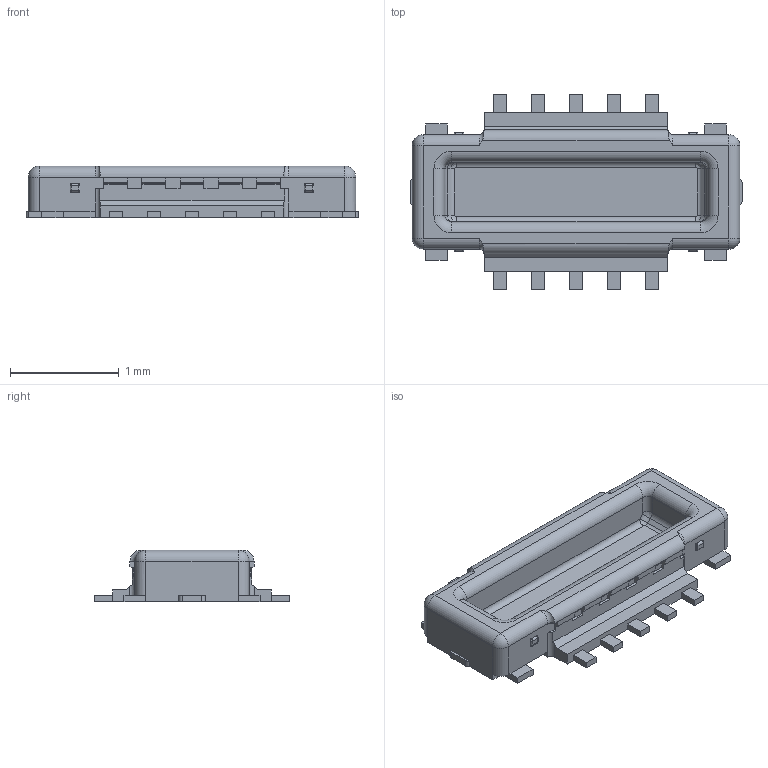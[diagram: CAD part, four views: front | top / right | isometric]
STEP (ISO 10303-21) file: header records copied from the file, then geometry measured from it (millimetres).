
FILE_DESCRIPTION(('CATIA V5 STEP Exchange'),'2;1');
FILE_NAME('H:\华灿---系列图\BtoB--板对板----(HCTL)\锦善-提供--替代BK13C-BTB\3d\NDP\HC-PBB13C-10DP-0.35V-0.6-05.stp','2026-01-06T03:33:20+00:00',('none'),('none'),'CATIA Version 5 Release 20 GA (IN-10)','CATIA V5 STEP AP203','none');
FILE_SCHEMA(('CONFIG_CONTROL_DESIGN'));
Length unit declared in the file: millimetre
Products named in the file (1): B09P_16PIN_20240426
Bounding box: 3.05 x 1.8 x 0.47 mm (x, y, z)
Volume: 1.1 mm3; surface area: 14 mm2
Topology: 1 solids, 1 shells, 287 faces, 774 edges, 490 vertices
Faces by surface type: plane 183, cylinder 68, bspline 24, torus 8, sphere 4
Entity records: 9558 total; most frequent: CARTESIAN_POINT 2949, ORIENTED_EDGE 1540, DIRECTION 1078, EDGE_CURVE 770, VECTOR 578, LINE 578, VERTEX_POINT 490, AXIS2_PLACEMENT_3D 293
